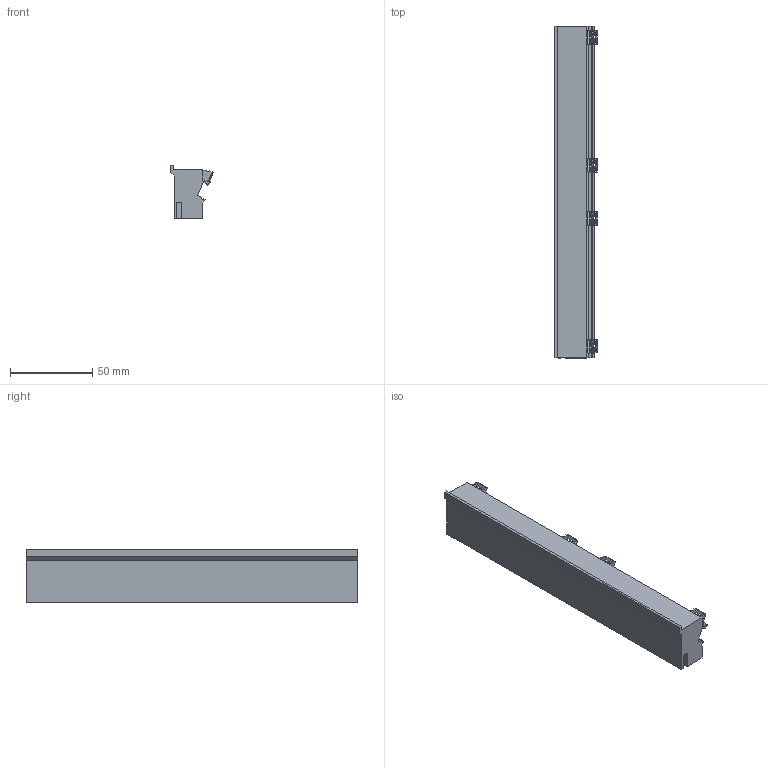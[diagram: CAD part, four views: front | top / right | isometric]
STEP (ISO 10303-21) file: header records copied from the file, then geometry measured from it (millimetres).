
FILE_DESCRIPTION(('Open CASCADE Model'),'2;1');
FILE_NAME('SOLID','2026-10-21T18:37:47',('Author'),('Open CASCADE'), 'Open CASCADE STEP processor 8.0','build123d','Unknown');
FILE_SCHEMA(('AUTOMOTIVE_DESIGN { 1 0 10303 214 1 1 1 1 }'));
Products named in the file (1): SOLID
Bounding box: 25.92 x 202 x 32.5 mm (x, y, z)
Volume: 105791.4 mm3; surface area: 26483.7 mm2
Topology: 1 solids, 1 shells, 612 faces, 1738 edges, 1116 vertices
Faces by surface type: plane 335, cylinder 276, bspline 1
Entity records: 46939 total; most frequent: CARTESIAN_POINT 14042, DIRECTION 5805, ORIENTED_EDGE 3476, PCURVE 3476, DEFINITIONAL_REPRESENTATION 3476, LINE 2574, VECTOR 2574, EDGE_CURVE 1738
